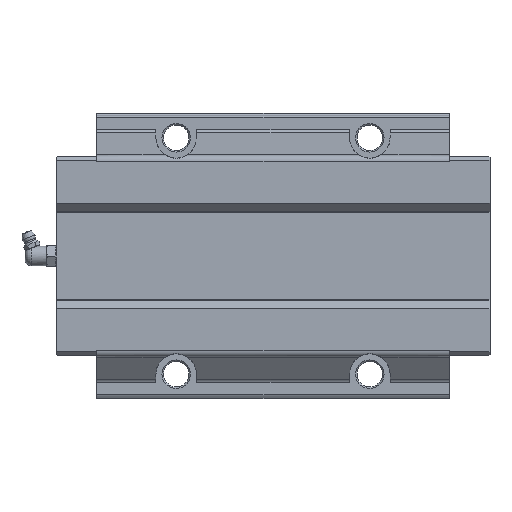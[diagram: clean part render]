
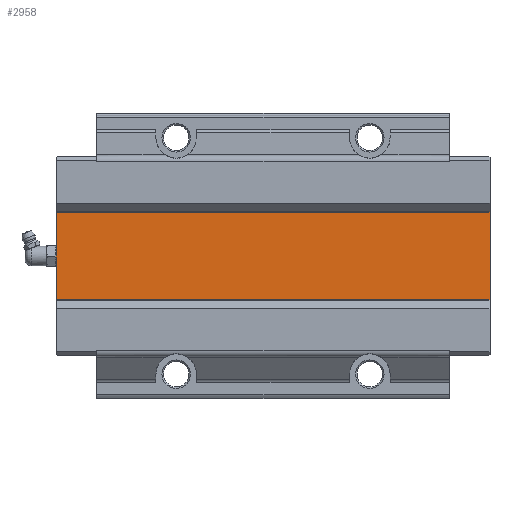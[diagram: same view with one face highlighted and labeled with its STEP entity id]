
A CAD part, front view. The second image highlights one B-rep face of the part: STEP entity #2958.
In plain terms, the highlighted planar face has unit normal (0, -1, 0).
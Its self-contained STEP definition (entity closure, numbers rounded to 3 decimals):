
#859=ORIENTED_EDGE('',*,*,#1190,.F.);
#860=ORIENTED_EDGE('',*,*,#1434,.F.);
#861=ORIENTED_EDGE('',*,*,#1127,.T.);
#862=ORIENTED_EDGE('',*,*,#1433,.T.);
#1127=EDGE_CURVE('',#1544,#1543,#1827,.T.);
#1190=EDGE_CURVE('',#1597,#1598,#1871,.T.);
#1433=EDGE_CURVE('',#1543,#1598,#2032,.T.);
#1434=EDGE_CURVE('',#1544,#1597,#2033,.T.);
#1543=VERTEX_POINT('',#4258);
#1544=VERTEX_POINT('',#4260);
#1597=VERTEX_POINT('',#4382);
#1598=VERTEX_POINT('',#4384);
#1827=LINE('',#4259,#2083);
#1871=LINE('',#4383,#2127);
#2032=LINE('',#4939,#2288);
#2033=LINE('',#4941,#2289);
#2083=VECTOR('',#3396,1000.);
#2127=VECTOR('',#3492,1000.);
#2288=VECTOR('',#3971,1000.);
#2289=VECTOR('',#3974,1000.);
#2445=EDGE_LOOP('',(#859,#860,#861,#862));
#2664=FACE_BOUND('',#2445,.T.);
#2823=PLANE('',#3253);
#2958=ADVANCED_FACE('',(#2664),#2823,.T.);
#3253=AXIS2_PLACEMENT_3D('',#4940,#3972,#3973);
#3396=DIRECTION('',(0.,0.,1.));
#3492=DIRECTION('',(0.,0.,1.));
#3971=DIRECTION('',(-1.,0.,0.));
#3972=DIRECTION('',(0.,-1.,0.));
#3973=DIRECTION('',(0.,0.,-1.));
#3974=DIRECTION('',(-1.,0.,0.));
#4258=CARTESIAN_POINT('',(106.5,25.3,22.233));
#4259=CARTESIAN_POINT('',(106.5,25.3,-22.233));
#4260=CARTESIAN_POINT('',(106.5,25.3,-22.233));
#4382=CARTESIAN_POINT('',(-106.5,25.3,-22.233));
#4383=CARTESIAN_POINT('',(-106.5,25.3,-22.233));
#4384=CARTESIAN_POINT('',(-106.5,25.3,22.233));
#4939=CARTESIAN_POINT('',(106.5,25.3,22.233));
#4940=CARTESIAN_POINT('',(106.5,25.3,-22.233));
#4941=CARTESIAN_POINT('',(106.5,25.3,-22.233));
